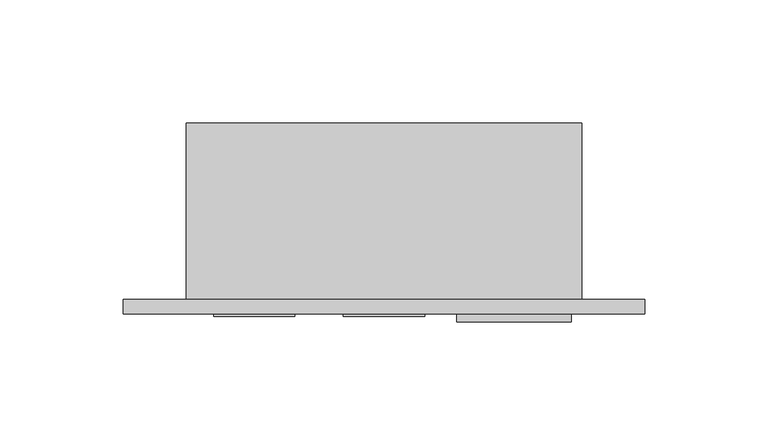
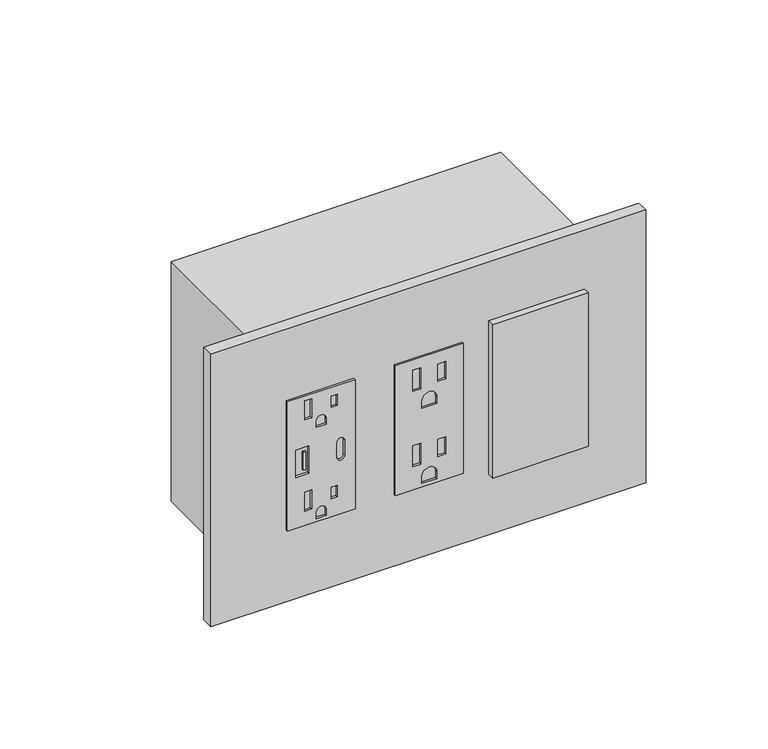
"""IFC4 building model written with IfcOpenShell, lengths in millimetres: proxy geometry, Electrical-Teknion-EPDMT_Vertical_Power_Data_Triple-R2019 : PD Vertical Module - Triple 15 Amp USB (A+C) & 15 Amp Standard."""

from ifc_helpers import new_model, si_unit, point, frame, frame_2d, origin, place, context, project, spatial, polyline, circle_curve, trimmed, segment, composite_curve, outline, extrude, source, transform, mapped, element, save


def electrical_fixtures_45b038c0(model_context):
    return source(origin(), model_context, "Body", "SweptSolid", [
        extrude(outline(polyline([(414.274, 44.0944), (414.274, 11.0998), (347.726, 11.0998), (347.726, 44.0944), (414.274, 44.0944)]), holes=[polyline([(411.8356, 22.9616), (402.0080649, 22.9616), (402.0080649, 19.6342), (411.8356, 19.6342), (411.8356, 22.9616)]), polyline([(409.8301324, 35.41014), (404.0135324, 35.41014), (404.0135324, 32.4358), (409.8301324, 32.4358), (409.8301324, 35.41014)]), composite_curve([segment(polyline([(396.24, 30.0609), (396.24, 25.1333), (399.3388, 25.1333)]), True, "CONTINUOUS"), segment(trimmed(circle_curve(frame_2d((399.3388, 27.5971)), 2.4638), [point((399.3388, 25.1333))], [point((399.3388, 30.0609))], True, "CARTESIAN"), True, "CONTINUOUS"), segment(polyline([(399.3388, 30.0609), (396.24, 30.0609)]), True, "CONTINUOUS")], self_intersect=False), polyline([(364.8456, 22.9616), (355.0180649, 22.9616), (355.0180649, 19.6342), (364.8456, 19.6342), (364.8456, 22.9616)]), polyline([(362.8401324, 35.41014), (357.0235324, 35.41014), (357.0235324, 32.4358), (362.8401324, 32.4358), (362.8401324, 35.41014)]), composite_curve([segment(polyline([(349.25, 30.0609), (349.25, 25.1333), (352.3488, 25.1333)]), True, "CONTINUOUS"), segment(trimmed(circle_curve(frame_2d((352.3488, 27.5971)), 2.4638), [point((352.3488, 25.1333))], [point((352.3488, 30.0609))], True, "CARTESIAN"), True, "CONTINUOUS"), segment(polyline([(352.3488, 30.0609), (349.25, 30.0609)]), True, "CONTINUOUS")], self_intersect=False), polyline([(388.0485, 21.59), (373.9515, 21.59), (373.9515, 15.0876), (388.0485, 15.0876), (388.0485, 21.59)]), composite_curve([segment(trimmed(circle_curve(frame_2d((377.2154, 37.1348)), 1.905), [point((377.2154, 39.0398))], [point((377.2154, 35.2298))], True, "CARTESIAN"), True, "CONTINUOUS"), segment(polyline([(377.2154, 35.2298), (384.7846, 35.2298)]), True, "CONTINUOUS"), segment(trimmed(circle_curve(frame_2d((384.7846, 37.1348)), 1.905), [point((384.7846, 35.2298))], [point((384.7846, 39.0398))], True, "CARTESIAN"), True, "CONTINUOUS"), segment(polyline([(384.7846, 39.0398), (377.2154, 39.0398)]), True, "CONTINUOUS")], self_intersect=False)]), frame((0.0, -6.9294746, 0.0), z_axis=(0.0, 1.0, 0.0), x_axis=(0.0, 0.0, 1.0)), (0.0, 0.0, 1.0), 1.0366746),
        extrude(outline(polyline([(20.0803959, -6.9294746), (18.9613268, -6.9294746), (18.9613268, -5.8928), (20.0803959, -5.8928), (20.0803959, -6.9294746)])), frame((0.0, 0.0, 376.2998162), z_axis=(0.0, 0.0, 1.0), x_axis=(1.0, 0.0, 0.0)), (0.0, 0.0, 1.0), 9.2470447),
        extrude(outline(polyline([(414.4772, 96.7613), (414.4772, 63.7667), (347.5228, 63.7667), (347.5228, 96.7613), (414.4772, 96.7613)]), holes=[polyline([(409.0924, 76.1111), (398.272, 76.1111), (398.272, 72.2757), (409.0924, 72.2757), (409.0924, 76.1111)]), polyline([(408.1145, 88.2777), (399.2499, 88.2777), (399.2499, 84.4423), (408.1145, 84.4423), (408.1145, 88.2777)]), composite_curve([segment(polyline([(388.0866, 83.8962), (388.0866, 76.6318), (391.7188, 76.6318)]), True, "CONTINUOUS"), segment(trimmed(circle_curve(frame_2d((391.7188, 80.264)), 3.6322), [point((391.7188, 76.6318))], [point((391.7188, 83.8962))], True, "CARTESIAN"), True, "CONTINUOUS"), segment(polyline([(391.7188, 83.8962), (388.0866, 83.8962)]), True, "CONTINUOUS")], self_intersect=False), polyline([(370.3574, 76.1111), (359.537, 76.1111), (359.537, 72.2757), (370.3574, 72.2757), (370.3574, 76.1111)]), polyline([(369.3795, 88.2777), (360.5149, 88.2777), (360.5149, 84.4423), (369.3795, 84.4423), (369.3795, 88.2777)]), composite_curve([segment(polyline([(349.3516, 83.8962), (349.3516, 76.6318), (352.9838, 76.6318)]), True, "CONTINUOUS"), segment(trimmed(circle_curve(frame_2d((352.9838, 80.264)), 3.6322), [point((352.9838, 76.6318))], [point((352.9838, 83.8962))], True, "CARTESIAN"), True, "CONTINUOUS"), segment(polyline([(352.9838, 83.8962), (349.3516, 83.8962)]), True, "CONTINUOUS")], self_intersect=False)]), frame((0.0, -6.9294746, 0.0), z_axis=(0.0, 1.0, 0.0), x_axis=(0.0, 0.0, 1.0)), (0.0, 0.0, 1.0), 1.0366746),
        extrude(outline(polyline([(109.8296, -5.8928), (156.3624, -5.8928), (156.3624, -9.0678), (109.8296, -9.0678), (109.8296, -5.8928)])), frame((0.0, 0.0, 341.7922742), z_axis=(0.0, 0.0, 1.0), x_axis=(1.0, 0.0, 0.0)), (0.0, 0.0, 1.0), 79.0448),
        extrude(outline(polyline([(-25.6794, 0.0), (186.2074, 0.0), (186.2074, -5.8928), (-25.6794, -5.8928), (-25.6794, 0.0)])), frame((0.0, 0.0, 310.8198), z_axis=(0.0, 0.0, 1.0), x_axis=(1.0, 0.0, 0.0)), (0.0, 0.0, 1.0), 140.3604),
        extrude(outline(polyline([(160.528, 0.0), (0.0, 0.0), (0.0, 71.7296), (160.528, 71.7296), (160.528, 0.0)])), frame((0.0, 0.0, 319.2526), z_axis=(0.0, 0.0, 1.0), x_axis=(1.0, 0.0, 0.0)), (0.0, 0.0, 1.0), 123.4948),
    ])


if __name__ == "__main__":
    model = new_model("IFC4")
    model_context = context("Model", 3, world=origin())
    ifc_project = project(units=[si_unit("LENGTHUNIT", "METRE", prefix="MILLI")], contexts=[model_context])
    site = spatial("IfcSite", under=ifc_project)
    building = spatial("IfcBuilding", under=site)
    placement = place(None, origin())
    electrical_fixtures_shape = electrical_fixtures_45b038c0(model_context)
    element("IfcBuildingElementProxy", 1, Name="Electrical-Teknion-EPDMT_Vertical_Power_Data_Triple-R2019 : PD Vertical Module - Triple 15 Amp USB (A+C) & 15 Amp Standard", ObjectType="Electrical-Teknion-EPDMT_Vertical_Power_Data_Triple-R2019 : PD Vertical Module - Triple 15 Amp USB (A+C) & 15 Amp Standard", at=placement, inside=building, context=model_context, shape_type="MappedRepresentation", body=[
        mapped(electrical_fixtures_shape, transform((0.0, 0.0, 0.0), x_axis=(1.0, 0.0, 0.0), y_axis=(0.0, 1.0, 0.0), z_axis=(0.0, 0.0, 1.0))),
    ])
    save(model, "model.ifc")
